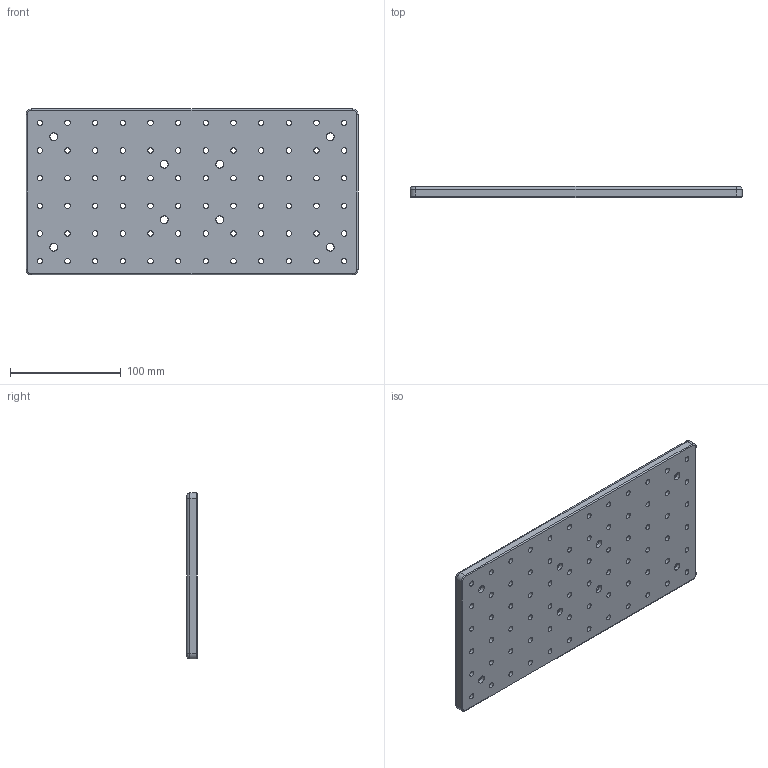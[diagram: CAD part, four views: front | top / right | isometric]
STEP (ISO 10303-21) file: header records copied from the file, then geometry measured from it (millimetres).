
FILE_DESCRIPTION (( 'STEP AP203' ), '1' );
FILE_NAME ('M-SAB-1530-10P.step', '2017-01-10T01:17:33', ( '¦K¬P' ), ( '' ), 'SwSTEP 2.0', 'SolidWorks 2012', '' );
FILE_SCHEMA (( 'CONFIG_CONTROL_DESIGN' ));
Length unit declared in the file: millimetre
Products named in the file (1): M-SAB-1530-10P
Bounding box: 300 x 9.8 x 150 mm (x, y, z)
Volume: 419118.2 mm3; surface area: 107166 mm2
Topology: 1 solids, 1 shells, 122 faces, 320 edges, 208 vertices
Faces by surface type: cylinder 100, plane 14, torus 8
Full cylindrical faces by diameter (mm): 5 x72, 7 x8, 11 x8
Entity records: 3821 total; most frequent: DIRECTION 686, CARTESIAN_POINT 563, ORIENTED_EDGE 464, EDGE_LOOP 378, AXIS2_PLACEMENT_3D 331, EDGE_CURVE 232, FACE_OUTER_BOUND 210, CIRCLE 208
